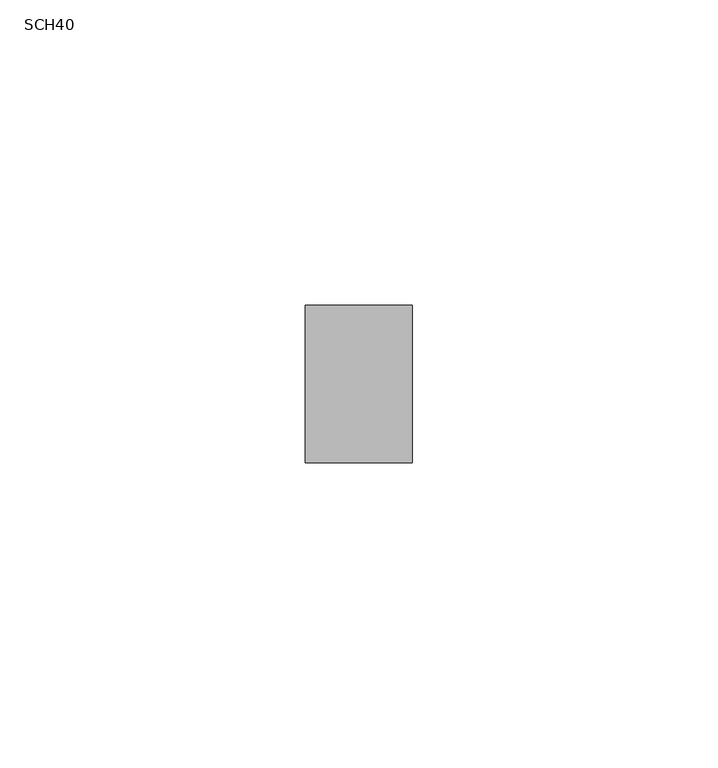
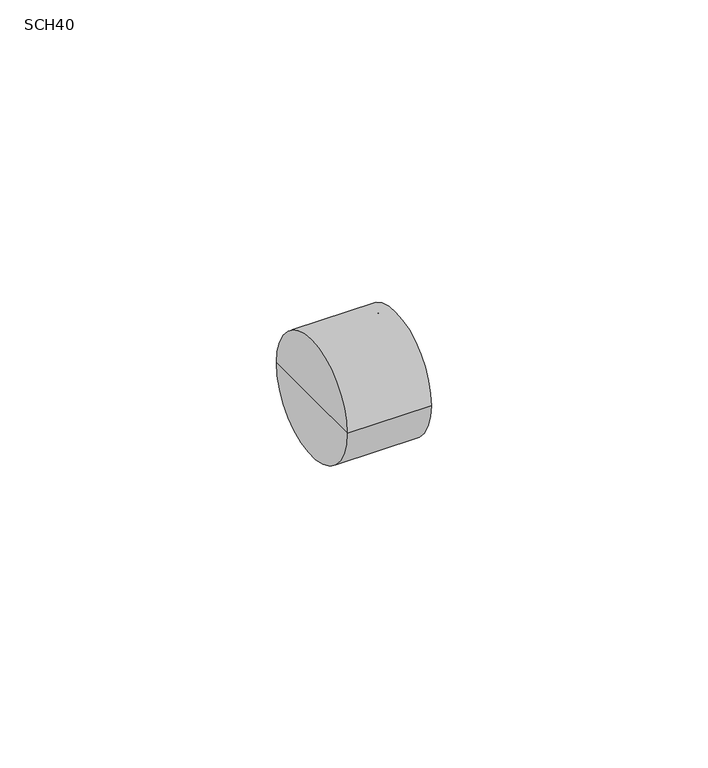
"""IFC4 building model written with IfcOpenShell, lengths in millimetres: cable carrier fitting geometry, PavcoWavin_ConduitFittings_ZnoUsarAdaptadorTerminal : SCH40."""

from ifc_helpers import new_model, si_unit, frame, origin, place, context, project, spatial, polyline, circle_curve, source, transform, mapped, element, save
from ifc_brep_helpers import plane_surface, cylinder_surface, revolved_surface, advanced_brep


def sch40_78924ee8(model_context):
    return source(origin(), model_context, "Body", "AdvancedBrep", [
        advanced_brep(
        [(17.48, 12.86, 0.0), (17.48, 10.75, 0.0), (17.48, -10.75, 0.0), (17.48, -12.86, 0.0), (0.0, 12.86, 0.0), (0.0, -12.86, 0.0), (0.0, 0.0, 0.0), (2.5, 10.75, 0.0), (2.5, 0.0, 0.0), (2.5, -10.75, 0.0)],
        [
            (0, 1),
            (1, 2, circle_curve(frame((17.48, 0.0, 0.0), z_axis=(-1.0, 0.0, 0.0), x_axis=(0.0, -1.0, 0.0)), 10.75)),
            (2, 3),
            (3, 0, circle_curve(frame((17.48, 0.0, 0.0), z_axis=(1.0, 0.0, 0.0), x_axis=(0.0, -1.0, 0.0)), 12.86)),
            (2, 1, circle_curve(frame((17.48, 0.0, 0.0), z_axis=(-1.0, 0.0, 0.0), x_axis=(0.0, -1.0, 0.0)), 10.75)),
            (0, 3, circle_curve(frame((17.48, 0.0, 0.0), z_axis=(1.0, 0.0, 0.0), x_axis=(0.0, -1.0, 0.0)), 12.86)),
            (4, 0),
            (3, 5),
            (5, 4, circle_curve(frame((0.0, 0.0, 0.0), z_axis=(1.0, 0.0, 0.0), x_axis=(0.0, -1.0, 0.0)), 12.86)),
            (4, 5, circle_curve(frame((0.0, 0.0, 0.0), z_axis=(1.0, 0.0, 0.0), x_axis=(0.0, -1.0, 0.0)), 12.86)),
            (6, 4),
            (5, 6),
            (7, 8),
            (8, 9),
            (9, 7, circle_curve(frame((2.5, 0.0, 0.0), z_axis=(1.0, 0.0, 0.0), x_axis=(0.0, -1.0, 0.0)), 10.75)),
            (7, 9, circle_curve(frame((2.5, 0.0, 0.0), z_axis=(1.0, 0.0, 0.0), x_axis=(0.0, -1.0, 0.0)), 10.75)),
            (1, 7),
            (9, 2),
        ],
        [
            plane_surface(frame((17.48, 0.0, 0.0), z_axis=(1.0, 0.0, 0.0), x_axis=(0.0, -1.0, 0.0))),
            cylinder_surface(frame((2001.25, 0.0, 0.0), z_axis=(-1.0, 0.0, 0.0), x_axis=(0.0, -1.0, 0.0)), 12.86),
            plane_surface(frame((0.0, 0.0, 0.0), z_axis=(-1.0, 0.0, 0.0), x_axis=(0.0, -1.0, 0.0))),
            plane_surface(frame((2.5, 0.0, 0.0), z_axis=(1.0, 0.0, 0.0), x_axis=(0.0, -1.0, 0.0))),
            revolved_surface(polyline([(2.5, -10.75, 0.0), (17.480000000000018, -10.75, 0.0)]), (2001.25, 0.0, 0.0), (-1.0, 0.0, 0.0)),
        ],
        [
            (0, [[1, 2, 3, 4]]),
            (0, [[-3, 5, -1, 6]]),
            (1, [[7, -4, 8, 9]]),
            (1, [[-8, -6, -7, 10]]),
            (2, [[11, -9, 12]]),
            (2, [[-12, -10, -11]]),
            (3, [[13, 14, 15]]),
            (3, [[-14, -13, 16]]),
            (4, [[17, -15, 18, -2]]),
            (4, [[-18, -16, -17, -5]]),
        ],
    ),
    ])


if __name__ == "__main__":
    model = new_model("IFC4")
    model_context = context("Model", 3, world=origin())
    ifc_project = project(units=[si_unit("LENGTHUNIT", "METRE", prefix="MILLI")], contexts=[model_context])
    site = spatial("IfcSite", under=ifc_project)
    building = spatial("IfcBuilding", under=site)
    placement = place(None, origin())
    sch40_shape = sch40_78924ee8(model_context)
    element("IfcCableCarrierFitting", 1, ObjectType="PavcoWavin_ConduitFittings_ZnoUsarAdaptadorTerminal : SCH40", at=placement, inside=building, context=model_context, shape_type="MappedRepresentation", body=[
        mapped(sch40_shape, transform((0.0, 0.0, 0.0), x_axis=(1.0, 0.0, 0.0), y_axis=(0.0, 1.0, 0.0), z_axis=(0.0, 0.0, 1.0))),
    ])
    save(model, "model.ifc")
